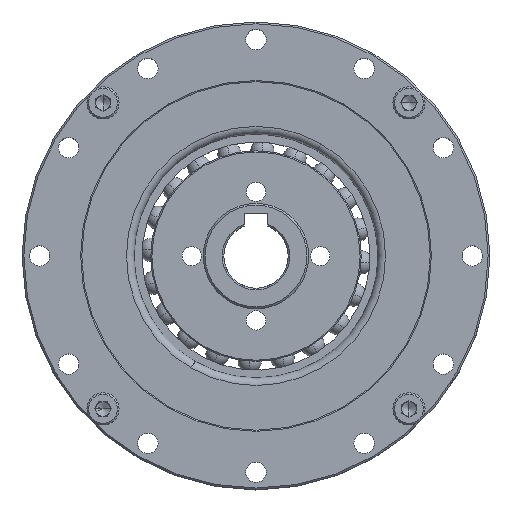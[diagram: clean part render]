
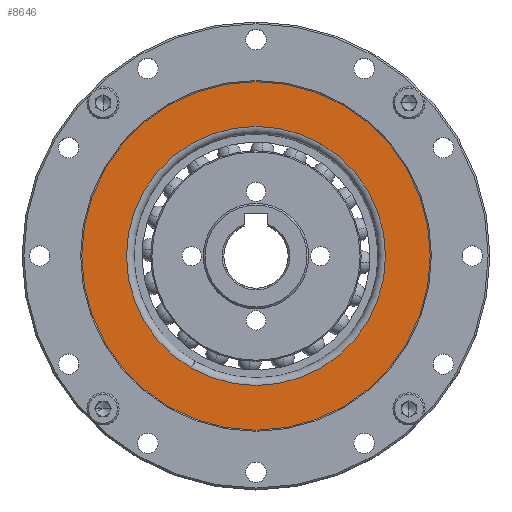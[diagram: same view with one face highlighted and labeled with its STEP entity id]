
A CAD part, top view. The second image highlights one B-rep face of the part: STEP entity #8646.
In plain terms, the highlighted planar face has unit normal (0, 0, 1).
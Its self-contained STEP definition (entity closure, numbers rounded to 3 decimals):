
#653 = FACE_BOUND ( 'NONE', #8209, .T. ) ;
#1106 = DIRECTION ( 'NONE',  ( 0., 0., 1. ) ) ;
#1132 = CARTESIAN_POINT ( 'NONE',  ( -3.6, 2.657, 79.05 ) ) ;
#1294 = CARTESIAN_POINT ( 'NONE',  ( -3.6, 2.657, 79.05 ) ) ;
#1304 = DIRECTION ( 'NONE',  ( 0., 0., 1. ) ) ;
#1352 = DIRECTION ( 'NONE',  ( -0.5, -0.866, 0. ) ) ;
#2107 = DIRECTION ( 'NONE',  ( 0., 0., -1. ) ) ;
#2143 = CARTESIAN_POINT ( 'NONE',  ( -14.675, -16.525, 79.05 ) ) ;
#2248 = PLANE ( 'NONE',  #9215 ) ;
#2463 = CIRCLE ( 'NONE', #12712, 22.15 ) ;
#3052 = EDGE_CURVE ( 'NONE', #11197, #5199, #15998, .T. ) ;
#3833 = VERTEX_POINT ( 'NONE', #16427 ) ;
#3855 = CARTESIAN_POINT ( 'NONE',  ( -3.6, 2.657, 79.05 ) ) ;
#4101 = DIRECTION ( 'NONE',  ( 0., 0., -1. ) ) ;
#4190 = ORIENTED_EDGE ( 'NONE', *, *, #6848, .T. ) ;
#4237 = DIRECTION ( 'NONE',  ( -0.5, -0.866, 0. ) ) ;
#4436 = VERTEX_POINT ( 'NONE', #2143 ) ;
#4534 = CARTESIAN_POINT ( 'NONE',  ( -3.6, 2.657, 79.05 ) ) ;
#4641 = ORIENTED_EDGE ( 'NONE', *, *, #8836, .T. ) ;
#5003 = DIRECTION ( 'NONE',  ( -0.5, -0.866, 0. ) ) ;
#5050 = ORIENTED_EDGE ( 'NONE', *, *, #6431, .T. ) ;
#5199 = VERTEX_POINT ( 'NONE', #15917 ) ;
#6431 = EDGE_CURVE ( 'NONE', #3833, #4436, #9088, .T. ) ;
#6783 = AXIS2_PLACEMENT_3D ( 'NONE', #4534, #1106, #5003 ) ;
#6848 = EDGE_CURVE ( 'NONE', #5199, #11197, #8877, .T. ) ;
#7276 = DIRECTION ( 'NONE',  ( -0.5, -0.866, 0. ) ) ;
#7616 = FACE_OUTER_BOUND ( 'NONE', #10603, .T. ) ;
#8209 = EDGE_LOOP ( 'NONE', ( #4641, #5050 ) ) ;
#8323 = ORIENTED_EDGE ( 'NONE', *, *, #3052, .T. ) ;
#8646 = ADVANCED_FACE ( 'NONE', ( #7616, #653 ), #2248, .T. ) ;
#8836 = EDGE_CURVE ( 'NONE', #4436, #3833, #2463, .T. ) ;
#8877 = CIRCLE ( 'NONE', #15047, 29.8 ) ;
#9088 = CIRCLE ( 'NONE', #13650, 22.15 ) ;
#9215 = AXIS2_PLACEMENT_3D ( 'NONE', #1294, #15815, #15772 ) ;
#9309 = CARTESIAN_POINT ( 'NONE',  ( -18.5, -23.15, 79.05 ) ) ;
#9846 = CARTESIAN_POINT ( 'NONE',  ( -3.6, 2.657, 79.05 ) ) ;
#10603 = EDGE_LOOP ( 'NONE', ( #8323, #4190 ) ) ;
#11197 = VERTEX_POINT ( 'NONE', #9309 ) ;
#12712 = AXIS2_PLACEMENT_3D ( 'NONE', #3855, #4101, #4237 ) ;
#13650 = AXIS2_PLACEMENT_3D ( 'NONE', #9846, #2107, #7276 ) ;
#15047 = AXIS2_PLACEMENT_3D ( 'NONE', #1132, #1304, #1352 ) ;
#15772 = DIRECTION ( 'NONE',  ( -0.5, -0.866, 0. ) ) ;
#15815 = DIRECTION ( 'NONE',  ( 0., 0., 1. ) ) ;
#15917 = CARTESIAN_POINT ( 'NONE',  ( 11.3, 28.465, 79.05 ) ) ;
#15998 = CIRCLE ( 'NONE', #6783, 29.8 ) ;
#16427 = CARTESIAN_POINT ( 'NONE',  ( 7.475, 21.84, 79.05 ) ) ;
